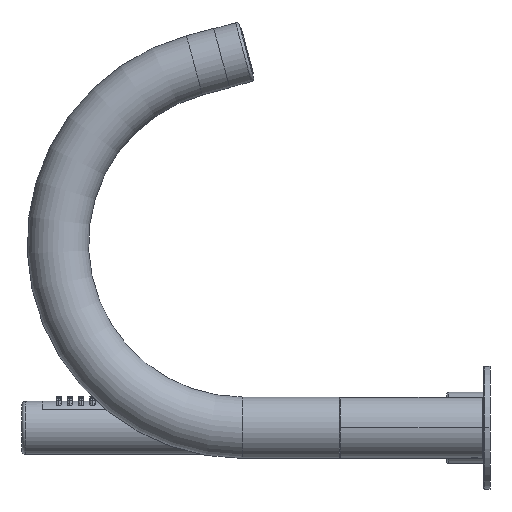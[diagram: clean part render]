
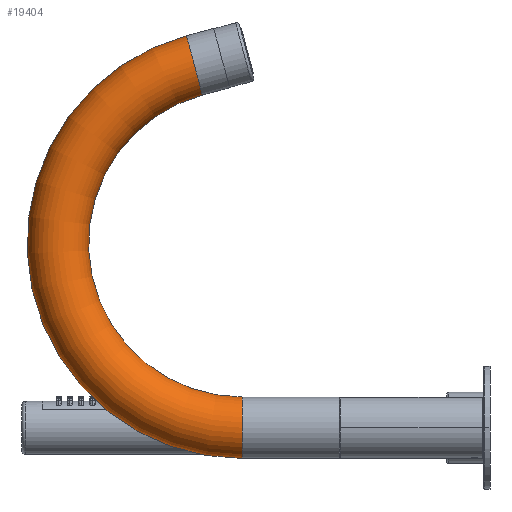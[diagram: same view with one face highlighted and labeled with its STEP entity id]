
A CAD part, left-side view. The second image highlights one B-rep face of the part: STEP entity #19404.
In plain terms, the highlighted toroidal (fillet/blend) face has major radius 90 mm and minor radius 15 mm.
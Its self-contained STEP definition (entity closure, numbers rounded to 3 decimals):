
#18424=CARTESIAN_POINT('',(0.,160.294,176.933));
#18425=DIRECTION('',(0.,-0.966,0.259));
#18426=DIRECTION('',(0.,0.259,0.966));
#18427=AXIS2_PLACEMENT_3D('',#18424,#18425,#18426);
#18433=CARTESIAN_POINT('',(0.,137.,0.));
#18434=DIRECTION('',(0.,1.,0.));
#18435=DIRECTION('',(0.,0.,-1.));
#18436=AXIS2_PLACEMENT_3D('',#18433,#18434,#18435);
#18438=CARTESIAN_POINT('',(0.,137.,90.));
#18439=DIRECTION('',(1.,0.,0.));
#18440=DIRECTION('',(0.,0.,-1.));
#18441=AXIS2_PLACEMENT_3D('',#18438,#18439,#18440);
#18580=CARTESIAN_POINT('',(0.,137.,90.));
#18581=DIRECTION('',(1.,0.,0.));
#18582=DIRECTION('',(0.,0.,-1.));
#18583=AXIS2_PLACEMENT_3D('',#18580,#18581,#18582);
#19071=CARTESIAN_POINT('',(0.,137.,-15.));
#19072=CARTESIAN_POINT('',(0.,137.,15.));
#19073=VERTEX_POINT('',#19071);
#19074=VERTEX_POINT('',#19072);
#19075=CARTESIAN_POINT('',(0.,164.176,191.422));
#19076=CARTESIAN_POINT('',(0.,156.411,162.444));
#19077=VERTEX_POINT('',#19075);
#19078=VERTEX_POINT('',#19076);
#19390=CARTESIAN_POINT('',(0.,137.,90.));
#19391=DIRECTION('',(1.,0.,0.));
#19392=DIRECTION('',(0.,0.,1.));
#19393=AXIS2_PLACEMENT_3D('',#19390,#19391,#19392);
#19394=TOROIDAL_SURFACE('',#19393,90.,15.);
#19396=ORIENTED_EDGE('',*,*,#19395,.F.);
#19398=ORIENTED_EDGE('',*,*,#19397,.T.);
#19399=ORIENTED_EDGE('',*,*,#19380,.T.);
#19401=ORIENTED_EDGE('',*,*,#19400,.F.);
#19402=EDGE_LOOP('',(#19396,#19398,#19399,#19401));
#19403=FACE_OUTER_BOUND('',#19402,.F.);
#19404=ADVANCED_FACE('',(#19403),#19394,.T.);
#18428=CIRCLE('',#18427,15.);
#18437=CIRCLE('',#18436,15.);
#18442=CIRCLE('',#18441,105.);
#18584=CIRCLE('',#18583,75.);
#19380=EDGE_CURVE('',#19077,#19078,#18428,.T.);
#19395=EDGE_CURVE('',#19073,#19074,#18437,.T.);
#19397=EDGE_CURVE('',#19073,#19077,#18442,.T.);
#19400=EDGE_CURVE('',#19074,#19078,#18584,.T.);
